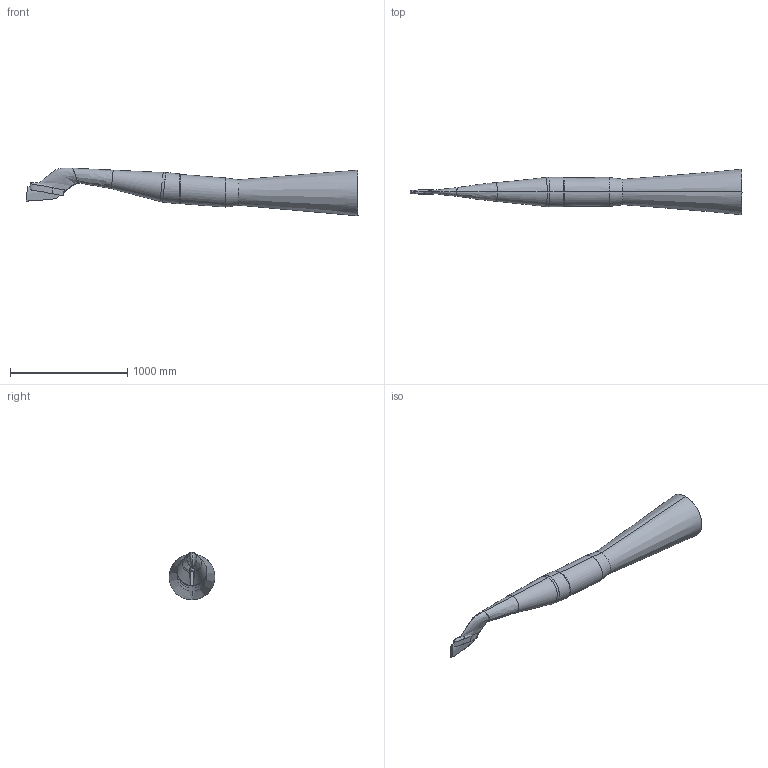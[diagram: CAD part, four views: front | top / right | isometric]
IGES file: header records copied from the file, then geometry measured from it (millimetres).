
Global section: file name: Z:\prj2.1\wind_tunnels\NTF\outgoing\geometry\Rumsey\NTF_USS_Sting_2025_04_21\NTF_USS_Sting_noRotation_2025_04_21.igs; native system: NX V12.0; preprocessor: SIEMENS PLM Software NX 12.0; date: 20250421.095230; units: inch
Bounding box: 2831.31 x 388.73 x 405.94 mm (x, y, z)
Surface area: 2231135.8 mm2 (no closed solid volume)
Topology: 0 solids, 0 shells, 33 faces, 276 edges, 272 vertices
Faces by surface type: bspline 33
